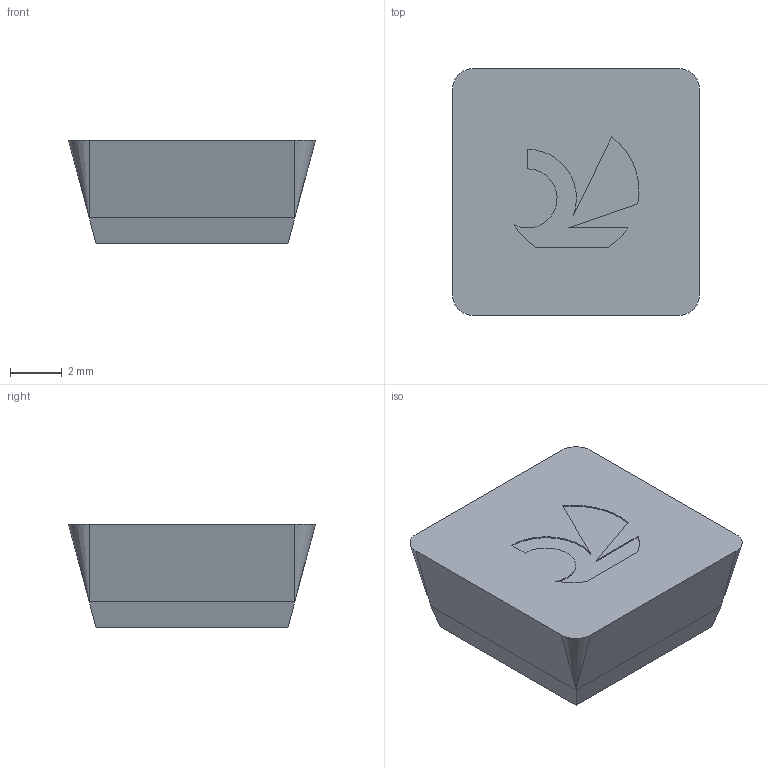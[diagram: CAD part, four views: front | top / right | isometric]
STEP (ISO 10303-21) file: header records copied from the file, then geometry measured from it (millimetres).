
FILE_DESCRIPTION(('no description'),'unknown implementation level');
FILE_NAME('solidTvPX8sCkh1KXuahNv8_BPwXe3iU_1.STP',' ',('CIMSOURCE GmbH'),('CADClick - KiM GmbH - www.kimweb.de'),'unknown preprocess','ACIS','unknown authorization');
FILE_SCHEMA(('automotive_design'));
Length unit declared in the file: millimetre
Products named in the file (1): CUT
Bounding box: 9.52 x 9.52 x 3.97 mm (x, y, z)
Volume: 284.4 mm3; surface area: 282.8 mm2
Topology: 1 solids, 1 shells, 26 faces, 65 edges, 38 vertices
Faces by surface type: plane 16, cylinder 6, cone 4
Entity records: 1470 total; most frequent: DIRECTION 133, CARTESIAN_POINT 127, STYLED_ITEM 126, PRESENTATION_STYLE_ASSIGNMENT 126, COLOUR_RGB 126, ORIENTED_EDGE 122, EDGE_CURVE 61, CURVE_STYLE 61
